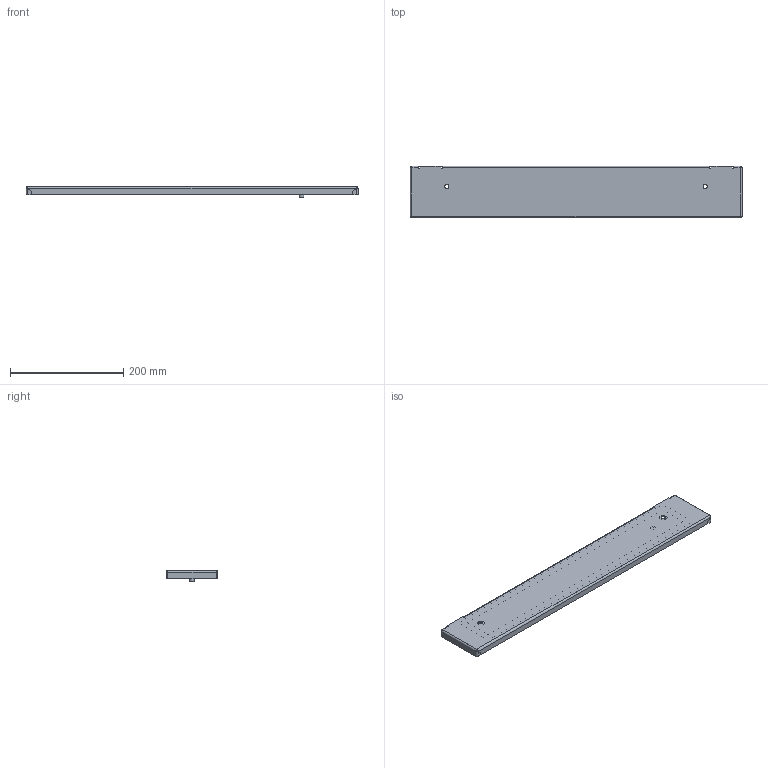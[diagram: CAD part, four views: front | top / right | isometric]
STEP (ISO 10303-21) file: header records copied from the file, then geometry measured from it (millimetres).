
FILE_DESCRIPTION(('STEP AP203'), '1');
FILE_NAME('Ïàíåëè êîìïåíñàöèîííûå ëèöåâûå ãëóõèå Â91õØ600 ìì OptiBox M (2 øò) 419549 ÊÝÀÇ', '', ('UNSPECIFIED'), ('UNSPECIFIED'), 'C3D Converter', 'C3D Toolkit', '');
FILE_SCHEMA(('CONFIG_CONTROL_DESIGN'));
Length unit declared in the file: millimetre
Bounding box: 586.4 x 91.5 x 18.9 mm (x, y, z)
Volume: 175094.6 mm3; surface area: 176212.5 mm2
Topology: 3 solids, 3 shells, 138 faces, 317 edges, 190 vertices
Faces by surface type: plane 87, cylinder 43, bspline 8
Full cylindrical faces by diameter (mm): 0.75 x1, 1 x1, 5 x2, 7.3 x2, 8 x1, 9.3 x1, 13 x1, 13.5 x2
Entity records: 5968 total; most frequent: CARTESIAN_POINT 1871, ORIENTED_EDGE 612, DIRECTION 586, EDGE_CURVE 306, LINE 216, VECTOR 216, VERTEX_POINT 190, AXIS2_PLACEMENT_3D 185
